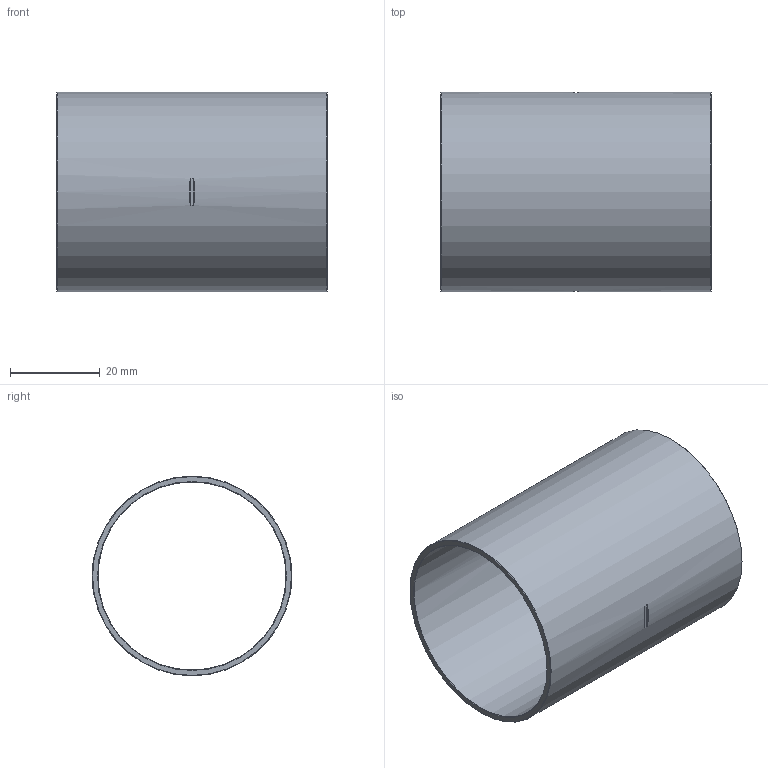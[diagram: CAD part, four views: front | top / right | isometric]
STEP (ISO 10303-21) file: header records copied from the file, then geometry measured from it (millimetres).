
FILE_DESCRIPTION((''),'2;1');
FILE_NAME('G:\SANHA-TERNAT\Technik\Management\Bouwmaten\z-maattekeningen 3D\imate 5000s\15270..._\1527042.stp','2009-10-19T09:08:46',('vdvijverd'),(''),'Autodesk Inventor 2009','Autodesk Inventor 2009','');
FILE_SCHEMA(('AUTOMOTIVE_DESIGN { 1 0 10303 214 1 1 1 1 }'));
Length unit declared in the file: millimetre
Products named in the file (1): 1527042
Bounding box: 60.5 x 44.6 x 44.6 mm (x, y, z)
Volume: 10697.9 mm3; surface area: 16783.6 mm2
Topology: 1 solids, 1 shells, 36 faces, 96 edges, 64 vertices
Faces by surface type: bspline 14, cylinder 10, plane 8, cone 4
Full cylindrical faces by diameter (mm): 42 x1, 44.6 x1
Entity records: 1420 total; most frequent: CARTESIAN_POINT 609, ORIENTED_EDGE 176, DIRECTION 126, EDGE_CURVE 88, VERTEX_POINT 64, EDGE_LOOP 48, AXIS2_PLACEMENT_3D 47, FACE_OUTER_BOUND 36
